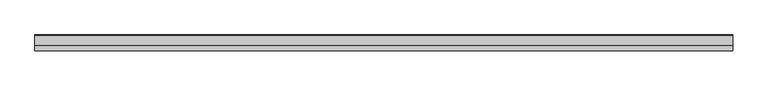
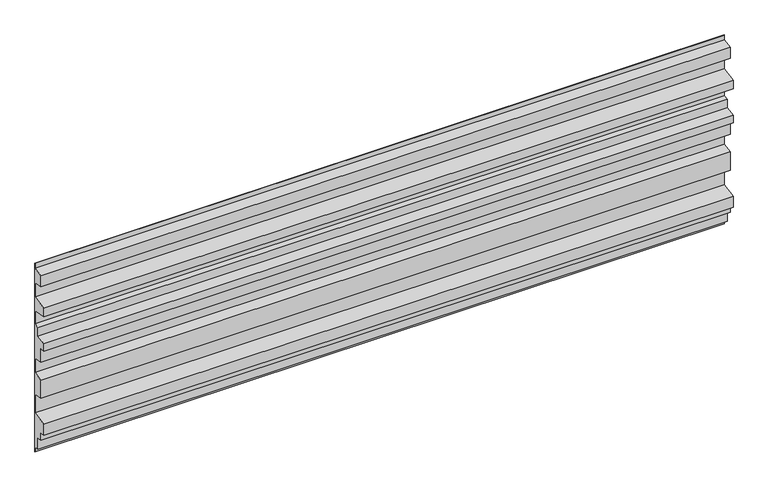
"""IFC4 building model written with IfcOpenShell, lengths in millimetres: plate geometry, ATELIERS 3S_NEW YORK MANHATTAN 780_HORIZONTAL : AZURO."""

from ifc_helpers import new_model, si_unit, frame, origin, place, context, project, spatial, polyline, outline, extrude, source, transform, mapped, element, save


def plate_8cca460b(model_context):
    return source(origin(), model_context, "Body", "SweptSolid", [
        extrude(outline(polyline([(-40.75, 752.9516131), (-0.8, 759.995876), (-0.8, 780.0), (0.0, 780.0), (0.0, 0.0), (-0.8, 0.0), (-0.8, 19.6941775), (-20.7501589, 23.211221), (-20.7501589, 68.2118488), (-40.7500015, 71.7384174), (-40.7500015, 101.7384166), (-60.7500001, 105.2649565), (-60.7500001, 150.8942812), (-0.75, 161.4739), (-0.75, 238.8445753), (-40.75, 245.8976546), (-40.75, 321.5269793), (-0.75, 328.5800585), (-0.75, 387.9507338), (-40.75, 395.003813), (-40.75, 450.003813), (-60.75, 453.5303526), (-60.75, 484.1596773), (-20.75, 491.2127566), (-20.75, 526.2127566), (-0.75, 529.7392962), (-0.75, 584.1099715), (-60.75, 594.6895903), (-60.75, 630.318915), (-0.75, 640.8985339), (-0.75, 700.2692092), (-40.75, 707.3222884), (-40.75, 752.9516131)])), frame((-1347.25, 0.0, 0.0), z_axis=(1.0, 0.0, 0.0), x_axis=(0.0, 1.0, 0.0)), (0.0, 0.0, 1.0), 2694.5),
    ])


if __name__ == "__main__":
    model = new_model("IFC4")
    model_context = context("Model", 3, world=origin())
    ifc_project = project(units=[si_unit("LENGTHUNIT", "METRE", prefix="MILLI")], contexts=[model_context])
    site = spatial("IfcSite", under=ifc_project)
    building = spatial("IfcBuilding", under=site)
    placement = place(None, origin())
    plate_shape = plate_8cca460b(model_context)
    element("IfcPlate", 1, ObjectType="ATELIERS 3S_NEW YORK MANHATTAN 780_HORIZONTAL : AZURO", at=placement, inside=building, context=model_context, shape_type="MappedRepresentation", body=[
        mapped(plate_shape, transform((0.0, 0.0, 0.0), x_axis=(1.0, 0.0, 0.0), y_axis=(0.0, 1.0, 0.0), z_axis=(0.0, 0.0, 1.0))),
    ])
    save(model, "model.ifc")
